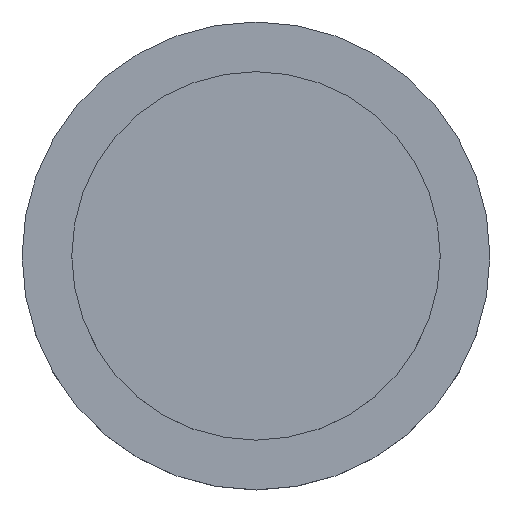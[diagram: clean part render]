
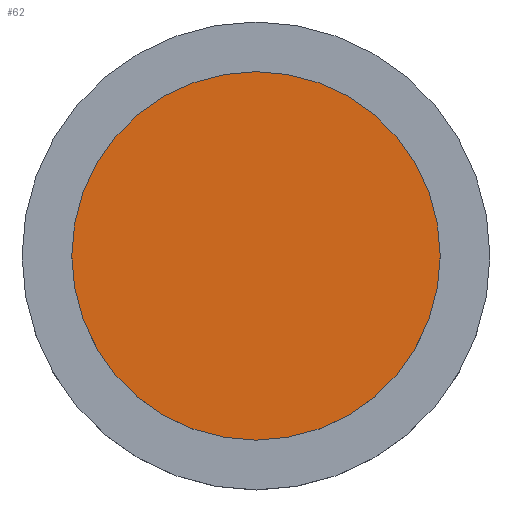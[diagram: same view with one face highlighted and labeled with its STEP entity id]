
A CAD part, top view. The second image highlights one B-rep face of the part: STEP entity #62.
In plain terms, the highlighted planar face has unit normal (0, 0, 1).
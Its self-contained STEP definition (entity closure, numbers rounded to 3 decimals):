
#62=ADVANCED_FACE('',(#80),#81,.T.);
#80=FACE_OUTER_BOUND('',#98,.T.);
#81=PLANE('',#99);
#98=EDGE_LOOP('',(#150,#151));
#99=AXIS2_PLACEMENT_3D('',#152,#153,#154);
#150=ORIENTED_EDGE('',*,*,#166,.T.);
#151=ORIENTED_EDGE('',*,*,#167,.T.);
#152=CARTESIAN_POINT('',(0.0,0.0,5.0));
#153=DIRECTION('',(0.0,0.0,1.0));
#154=DIRECTION('',(1.0,0.0,0.0));
#166=EDGE_CURVE('',#183,#187,#189,.T.);
#167=EDGE_CURVE('',#187,#183,#190,.T.);
#183=VERTEX_POINT('',#208);
#187=VERTEX_POINT('',#213);
#189=CIRCLE('',#216,10.0);
#190=CIRCLE('',#217,10.0);
#208=CARTESIAN_POINT('',(10.0,0.0,5.0));
#213=CARTESIAN_POINT('',(-10.0,0.,5.0));
#216=AXIS2_PLACEMENT_3D('',#244,#245,#246);
#217=AXIS2_PLACEMENT_3D('',#247,#248,#249);
#244=CARTESIAN_POINT('',(0.0,0.0,5.0));
#245=DIRECTION('',(0.0,0.0,1.0));
#246=DIRECTION('',(1.0,0.0,0.0));
#247=CARTESIAN_POINT('',(0.0,0.0,5.0));
#248=DIRECTION('',(0.0,0.0,1.0));
#249=DIRECTION('',(1.0,0.0,0.0));
